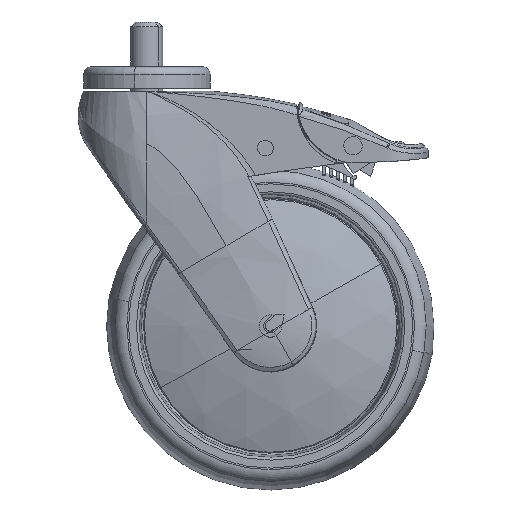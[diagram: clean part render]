
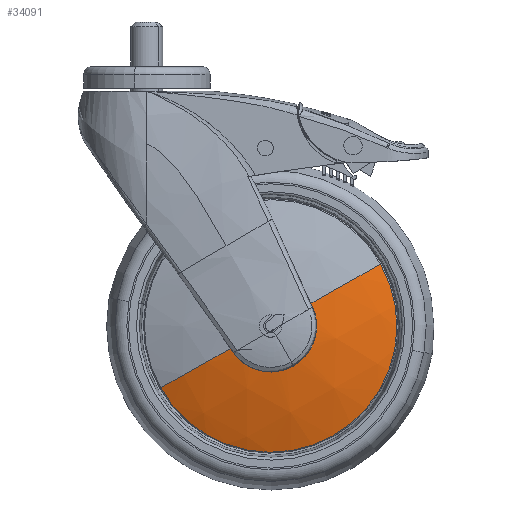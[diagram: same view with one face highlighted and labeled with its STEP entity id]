
A CAD part, front view. The second image highlights one B-rep face of the part: STEP entity #34091.
In plain terms, the highlighted spherical face has radius 136.86 mm.
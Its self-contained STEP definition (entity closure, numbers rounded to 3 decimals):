
#131 = EDGE_CURVE ( 'NONE', #93845, #34250, #39310, .T. ) ;
#307 = EDGE_CURVE ( 'NONE', #34250, #94540, #39778, .T. ) ;
#27553 = FACE_OUTER_BOUND ( 'NONE', #35510, .T. ) ;
#27557 = DIRECTION ( 'NONE',  ( -0.872, 0., -0.49 ) ) ;
#27558 = DIRECTION ( 'NONE',  ( 0., 1., 0. ) ) ;
#27559 = CARTESIAN_POINT ( 'NONE',  ( 23.08, -24.924, -36.397 ) ) ;
#27560 = AXIS2_PLACEMENT_3D ( 'NONE', #27559, #27558, #27557 ) ;
#27587 = CIRCLE ( 'NONE', #27560, 47.925 ) ;
#27593 = SPHERICAL_SURFACE ( 'NONE', #27596, 136.86 ) ;
#27595 = CARTESIAN_POINT ( 'NONE',  ( 23.08, 103.27, -36.397 ) ) ;
#27596 = AXIS2_PLACEMENT_3D ( 'NONE', #27595, #27661, #27660 ) ;
#27660 = DIRECTION ( 'NONE',  ( 0.872, 0., 0.49 ) ) ;
#27661 = DIRECTION ( 'NONE',  ( 0.49, 0., -0.872 ) ) ;
#27834 = CARTESIAN_POINT ( 'NONE',  ( 38.948, -32.469, -29.076 ) ) ;
#30730 = CARTESIAN_POINT ( 'NONE',  ( 64.853, -24.924, -12.906 ) ) ;
#34061 = EDGE_CURVE ( 'NONE', #35555, #93835, #27587, .T. ) ;
#34091 = ADVANCED_FACE ( 'NONE', ( #27553 ), #27593, .T. ) ;
#34250 = VERTEX_POINT ( 'NONE', #27834 ) ;
#35510 = EDGE_LOOP ( 'NONE', ( #92069, #35548, #93934, #93878, #94585, #94552 ) ) ;
#35548 = ORIENTED_EDGE ( 'NONE', *, *, #94561, .T. ) ;
#35555 = VERTEX_POINT ( 'NONE', #30730 ) ;
#39304 = DIRECTION ( 'NONE',  ( 0.419, 0., -0.908 ) ) ;
#39306 = DIRECTION ( 'NONE',  ( 0.908, 0., 0.419 ) ) ;
#39308 = CARTESIAN_POINT ( 'NONE',  ( 38.948, 103.27, -29.076 ) ) ;
#39309 = AXIS2_PLACEMENT_3D ( 'NONE', #39308, #39306, #39304 ) ;
#39310 = CIRCLE ( 'NONE', #39309, 135.74 ) ;
#39725 = CARTESIAN_POINT ( 'NONE',  ( 23.08, -32.469, -36.397 ) ) ;
#39774 = DIRECTION ( 'NONE',  ( -0.872, 0., -0.49 ) ) ;
#39776 = DIRECTION ( 'NONE',  ( 0., 1., 0. ) ) ;
#39777 = AXIS2_PLACEMENT_3D ( 'NONE', #39725, #39776, #39774 ) ;
#39778 = CIRCLE ( 'NONE', #39777, 17.476 ) ;
#71032 = CARTESIAN_POINT ( 'NONE',  ( 38.361, -32.462, -27.804 ) ) ;
#71057 = CARTESIAN_POINT ( 'NONE',  ( -18.692, -24.924, -59.889 ) ) ;
#71069 = CARTESIAN_POINT ( 'NONE',  ( 7.799, -32.462, -44.991 ) ) ;
#71570 = AXIS2_PLACEMENT_3D ( 'NONE', #71592, #71639, #71638 ) ;
#71592 = CARTESIAN_POINT ( 'NONE',  ( 23.08, 103.27, -36.397 ) ) ;
#71608 = DIRECTION ( 'NONE',  ( -0.558, 0., 0.83 ) ) ;
#71610 = DIRECTION ( 'NONE',  ( -0.83, 0., -0.558 ) ) ;
#71612 = CARTESIAN_POINT ( 'NONE',  ( 8.581, 103.27, -46.153 ) ) ;
#71614 = AXIS2_PLACEMENT_3D ( 'NONE', #71612, #71610, #71608 ) ;
#71616 = CIRCLE ( 'NONE', #71705, 136.86 ) ;
#71631 = CIRCLE ( 'NONE', #71614, 135.74 ) ;
#71633 = CARTESIAN_POINT ( 'NONE',  ( 23.08, 103.27, -36.397 ) ) ;
#71638 = DIRECTION ( 'NONE',  ( 0.872, 0., 0.49 ) ) ;
#71639 = DIRECTION ( 'NONE',  ( -0.49, 0., 0.872 ) ) ;
#71642 = CARTESIAN_POINT ( 'NONE',  ( 8.581, -32.469, -46.153 ) ) ;
#71656 = CIRCLE ( 'NONE', #71570, 136.86 ) ;
#71701 = DIRECTION ( 'NONE',  ( -0.872, 0., -0.49 ) ) ;
#71703 = DIRECTION ( 'NONE',  ( 0.49, 0., -0.872 ) ) ;
#71705 = AXIS2_PLACEMENT_3D ( 'NONE', #71633, #71703, #71701 ) ;
#92069 = ORIENTED_EDGE ( 'NONE', *, *, #94534, .T. ) ;
#93835 = VERTEX_POINT ( 'NONE', #71057 ) ;
#93845 = VERTEX_POINT ( 'NONE', #71032 ) ;
#93871 = VERTEX_POINT ( 'NONE', #71069 ) ;
#93878 = ORIENTED_EDGE ( 'NONE', *, *, #94461, .F. ) ;
#93934 = ORIENTED_EDGE ( 'NONE', *, *, #34061, .F. ) ;
#94461 = EDGE_CURVE ( 'NONE', #93845, #35555, #71656, .T. ) ;
#94534 = EDGE_CURVE ( 'NONE', #94540, #93871, #71631, .T. ) ;
#94540 = VERTEX_POINT ( 'NONE', #71642 ) ;
#94552 = ORIENTED_EDGE ( 'NONE', *, *, #307, .T. ) ;
#94561 = EDGE_CURVE ( 'NONE', #93871, #93835, #71616, .T. ) ;
#94585 = ORIENTED_EDGE ( 'NONE', *, *, #131, .T. ) ;
